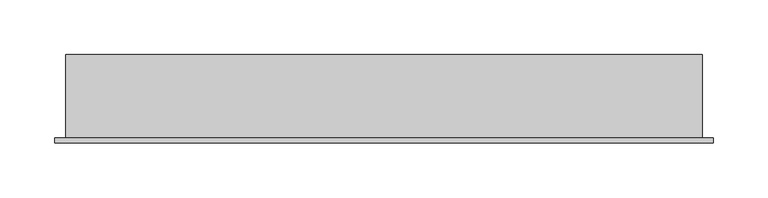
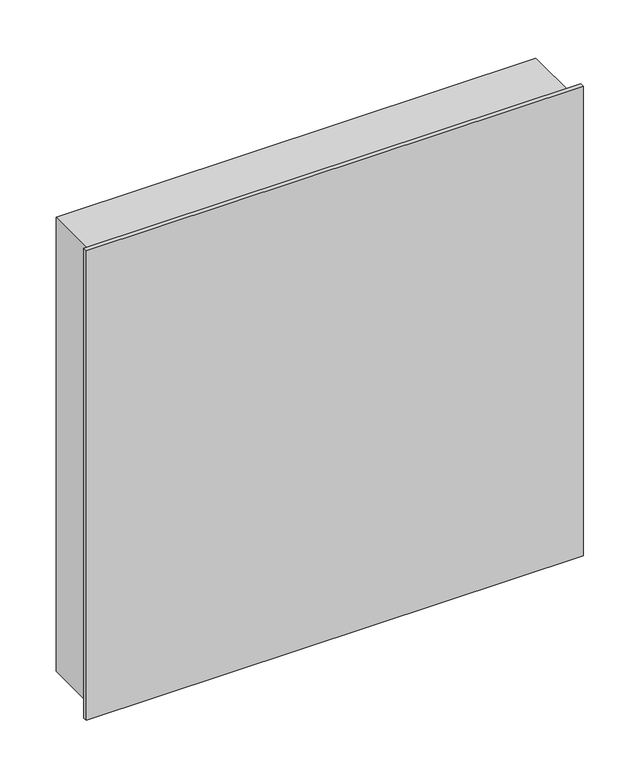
"""IFC4 building model written with IfcOpenShell, lengths in millimetres: plate geometry, Construction_Ceilings_Qwel-Tiles_Terra-Molded-Acoustic-Ceiling-Tiles : Terra (Charcoal Heather)."""

from ifc_helpers import new_model, si_unit, frame, origin, place, context, project, spatial, polyline, circle_curve, outline, extrude, source, transform, mapped, element, save
from ifc_brep_helpers import plane_surface, revolved_surface, advanced_brep


def plate_bf94edcd(model_context):
    return source(origin(), model_context, "Body", "SolidModel", [
        advanced_brep(
        [(-290.8101562, 4.9609375, 595.6101563), (-290.8101562, 81.1082644, 595.6101563), (-290.8101563, 81.1082644, 13.9898438), (-290.8101563, 4.9609375, 13.9898438), (290.8101563, 4.9609375, 595.6101563), (290.8101562, 4.9609375, 13.9898438), (290.8101562, 5.3578125, 13.9898438), (290.8101563, 5.3578125, 350.0139594), (290.8101563, 24.0011217, 350.0139594), (290.8101563, 24.0011217, 413.5057833), (290.8101563, 43.0511081, 413.5057833), (290.8101563, 43.0511081, 461.1229695), (290.8101563, 62.1010648, 461.1229695), (290.8101563, 62.1010648, 537.3082728), (290.8101563, 81.1082644, 537.3082728), (290.8101563, 81.1082644, 595.6101563), (-16.2691428, 81.1082644, 537.3082728), (-232.5008571, 81.1082644, 321.0765586), (-232.5008571, 81.1082644, 13.9898438), (-16.2691428, 62.1010648, 537.3082728), (-16.2691428, 62.1010648, 461.1229695), (-156.3155537, 62.1010648, 321.0765586), (-156.3155537, 62.1010648, 13.9898438), (-232.5008571, 62.1010648, 13.9898438), (-232.5008571, 62.1010648, 321.0765586), (-16.2691428, 43.0511081, 461.1229695), (-16.2691428, 43.0511081, 413.5057833), (-108.6983676, 43.0511081, 321.0765586), (-108.6983676, 43.0511081, 13.9898438), (-156.3155537, 43.0511081, 13.9898438), (-156.3155537, 43.0511081, 321.0765586), (-16.2691428, 24.0011217, 413.5057833), (-108.6983676, 24.0011217, 321.0765586), (-108.6983676, 24.0011217, 13.9898438), (-16.2691428, 24.0011217, 350.0139594), (-45.2065436, 24.0011217, 321.0765586), (-45.2065436, 24.0011217, 13.9898438), (-16.2691428, 5.3578125, 350.0139594), (-45.2065436, 5.3578125, 321.0765586), (-45.2065436, 5.3578125, 13.9898438)],
        [
            (0, 1),
            (1, 2),
            (2, 3),
            (3, 0),
            (4, 5),
            (5, 6),
            (6, 7),
            (7, 8),
            (8, 9),
            (9, 10),
            (10, 11),
            (11, 12),
            (12, 13),
            (13, 14),
            (14, 15),
            (15, 4),
            (3, 5),
            (4, 0),
            (1, 15),
            (14, 16),
            (16, 17, circle_curve(frame((-16.2691428, 81.1082644, 321.0765586), z_axis=(0.0, -1.0, 0.0), x_axis=(0.0, 0.0, 1.0)), 216.2317143)),
            (17, 18),
            (18, 2),
            (13, 19),
            (19, 16),
            (12, 20),
            (20, 21, circle_curve(frame((-16.2691428, 62.1010648, 321.0765586), z_axis=(0.0, -1.0, 0.0), x_axis=(0.0, 0.0, 1.0)), 140.0464109)),
            (21, 22),
            (22, 23),
            (23, 24),
            (24, 19, circle_curve(frame((-16.2691428, 62.1010648, 321.0765586), z_axis=(0.0, 1.0, 0.0), x_axis=(0.0, 0.0, 1.0)), 216.2317143)),
            (11, 25),
            (25, 20),
            (10, 26),
            (26, 27, circle_curve(frame((-16.2691428, 43.0511081, 321.0765586), z_axis=(0.0, -1.0, 0.0), x_axis=(0.0, 0.0, 1.0)), 92.4292248)),
            (27, 28),
            (28, 29),
            (29, 30),
            (30, 25, circle_curve(frame((-16.2691428, 43.0511081, 321.0765586), z_axis=(0.0, 1.0, 0.0), x_axis=(0.0, 0.0, 1.0)), 140.0464109)),
            (9, 31),
            (31, 26),
            (24, 17),
            (30, 21),
            (31, 32, circle_curve(frame((-16.2691428, 24.0011217, 321.0765586), z_axis=(0.0, -1.0, 0.0), x_axis=(0.0, 0.0, 1.0)), 92.4292248)),
            (32, 27),
            (23, 18),
            (29, 22),
            (32, 33),
            (33, 28),
            (8, 34),
            (34, 35, circle_curve(frame((-16.2691428, 24.0011217, 321.0765586), z_axis=(0.0, -1.0, 0.0), x_axis=(0.0, 0.0, 1.0)), 28.9374008)),
            (35, 36),
            (36, 33),
            (7, 37),
            (37, 34),
            (37, 38, circle_curve(frame((-16.2691428, 5.3578125, 321.0765586), z_axis=(0.0, -1.0, 0.0), x_axis=(0.0, 0.0, 1.0)), 28.9374008)),
            (38, 35),
            (38, 39),
            (39, 36),
            (39, 6),
        ],
        [
            plane_surface(frame((-290.8101562, 4.9609375, 595.6101563), z_axis=(-1.0, 0.0, 0.0), x_axis=(0.0, 1.0, 0.0))),
            plane_surface(frame((290.8101563, 4.9609375, 595.6101563), z_axis=(1.0, 0.0, 0.0), x_axis=(0.0, -1.0, 0.0))),
            plane_surface(frame((-290.8101563, 4.9609375, 13.9898438), z_axis=(0.0, -1.0, 0.0), x_axis=(1.0, 0.0, 0.0))),
            plane_surface(frame((-290.8101562, 81.1082644, 595.6101563), z_axis=(0.0, 1.0, 0.0), x_axis=(1.0, 0.0, 0.0))),
            plane_surface(frame((290.8101563, 81.1082644, 537.3082728), z_axis=(0.0, 0.0, -1.0), x_axis=(-1.0, 0.0, 0.0))),
            plane_surface(frame((290.8101563, 62.1010648, 537.3082728), z_axis=(0.0, 1.0, 0.0), x_axis=(-1.0, 0.0, 0.0))),
            plane_surface(frame((290.8101563, 62.1010648, 461.1229695), z_axis=(0.0, 0.0, -1.0), x_axis=(-1.0, 0.0, 0.0))),
            plane_surface(frame((290.8101563, 43.0511081, 461.1229695), z_axis=(0.0, 1.0, 0.0), x_axis=(-1.0, 0.0, 0.0))),
            plane_surface(frame((290.8101563, 43.0511081, 413.5057833), z_axis=(0.0, 0.0, -1.0), x_axis=(-1.0, 0.0, 0.0))),
            revolved_surface(polyline([(-16.2691428, 62.1010648, 537.3082729), (-16.2691428, 81.1082644, 537.3082729)]), (-16.2691428, 4.9609375, 321.0765586), (0.0, -1.0, 0.0)),
            revolved_surface(polyline([(-16.2691428, 43.0511081, 461.1229695), (-16.2691428, 62.1010648, 461.1229695)]), (-16.2691428, 4.9609375, 321.0765586), (0.0, -1.0, 0.0)),
            revolved_surface(polyline([(-16.2691428, 24.0011217, 413.5057834), (-16.2691428, 43.0511081, 413.5057834)]), (-16.2691428, 4.9609375, 321.0765586), (0.0, -1.0, 0.0)),
            plane_surface(frame((-232.5008571, 81.1082644, 321.0765586), z_axis=(1.0, 0.0, 0.0), x_axis=(0.0, 0.0, -1.0))),
            plane_surface(frame((-156.3155537, 62.1010648, 321.0765586), z_axis=(1.0, 0.0, 0.0), x_axis=(0.0, 0.0, -1.0))),
            plane_surface(frame((-108.6983676, 43.0511081, 321.0765586), z_axis=(1.0, 0.0, 0.0), x_axis=(0.0, 0.0, -1.0))),
            plane_surface(frame((290.8101563, 24.0011217, 413.5057833), z_axis=(0.0, 1.0, 0.0), x_axis=(-1.0, 0.0, 0.0))),
            plane_surface(frame((290.8101563, 24.0011217, 350.0139594), z_axis=(0.0, 0.0, -1.0), x_axis=(-1.0, 0.0, 0.0))),
            revolved_surface(polyline([(-16.2691428, 5.3578125, 350.0139594), (-16.2691428, 24.0011217, 350.0139594)]), (-16.2691428, 4.9609375, 321.0765586), (0.0, -1.0, 0.0)),
            plane_surface(frame((-45.2065436, 24.0011217, 321.0765586), z_axis=(1.0, 0.0, 0.0), x_axis=(0.0, 0.0, -1.0))),
            plane_surface(frame((-290.8101562, 4.9609375, 595.6101563), z_axis=(0.0, 0.0, 1.0), x_axis=(1.0, 0.0, 0.0))),
            plane_surface(frame((-290.8101563, 81.1082644, 13.9898438), z_axis=(0.0, 0.0, -1.0), x_axis=(1.0, 0.0, 0.0))),
            plane_surface(frame((290.8101563, 5.3578125, 350.0139594), z_axis=(0.0, 1.0, 0.0), x_axis=(-1.0, 0.0, 0.0))),
        ],
        [
            (0, [[1, 2, 3, 4]]),
            (1, [[5, 6, 7, 8, 9, 10, 11, 12, 13, 14, 15, 16]]),
            (2, [[-4, 17, -5, 18]]),
            (3, [[-2, 19, -15, 20, 21, 22, 23]]),
            (4, [[24, 25, -20, -14]]),
            (5, [[-24, -13, 26, 27, 28, 29, 30, 31]]),
            (6, [[-26, -12, 32, 33]]),
            (7, [[-32, -11, 34, 35, 36, 37, 38, 39]]),
            (8, [[-34, -10, 40, 41]]),
            (9, [[-25, -31, 42, -21]]),
            (10, [[-27, -33, -39, 43]]),
            (11, [[-35, -41, 44, 45]]),
            (12, [[-30, 46, -22, -42]]),
            (13, [[-28, -43, -38, 47]]),
            (14, [[-36, -45, 48, 49]]),
            (15, [[-40, -9, 50, 51, 52, 53, -48, -44]]),
            (16, [[-50, -8, 54, 55]]),
            (17, [[-51, -55, 56, 57]]),
            (18, [[-52, -57, 58, 59]]),
            (19, [[-1, -18, -16, -19]]),
            (20, [[-3, -23, -46, -29, -47, -37, -49, -53, -59, 60, -6, -17]]),
            (21, [[-54, -7, -60, -58, -56]]),
        ],
    ),
        extrude(outline(polyline([(300.99, 0.0), (-300.99, 0.0), (-300.99, 4.9609375), (300.99, 4.9609375), (300.99, 0.0)])), frame((0.0, 0.0, 3.81), z_axis=(0.0, 0.0, 1.0), x_axis=(1.0, 0.0, 0.0)), (0.0, 0.0, 1.0), 601.98),
    ])


if __name__ == "__main__":
    model = new_model("IFC4")
    model_context = context("Model", 3, world=origin())
    ifc_project = project(units=[si_unit("LENGTHUNIT", "METRE", prefix="MILLI")], contexts=[model_context])
    site = spatial("IfcSite", under=ifc_project)
    building = spatial("IfcBuilding", under=site)
    placement = place(None, origin())
    plate_shape = plate_bf94edcd(model_context)
    element("IfcPlate", 1, ObjectType="Construction_Ceilings_Qwel-Tiles_Terra-Molded-Acoustic-Ceiling-Tiles : Terra (Charcoal Heather)", at=placement, inside=building, context=model_context, shape_type="MappedRepresentation", body=[
        mapped(plate_shape, transform((0.0, 0.0, 0.0), x_axis=(1.0, 0.0, 0.0), y_axis=(0.0, 1.0, 0.0), z_axis=(0.0, 0.0, 1.0))),
    ])
    save(model, "model.ifc")
